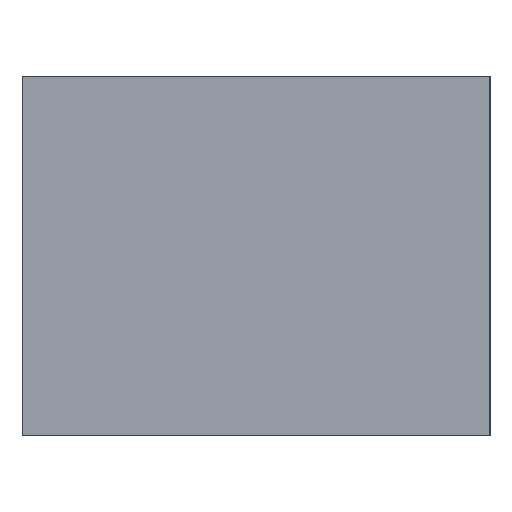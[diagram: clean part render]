
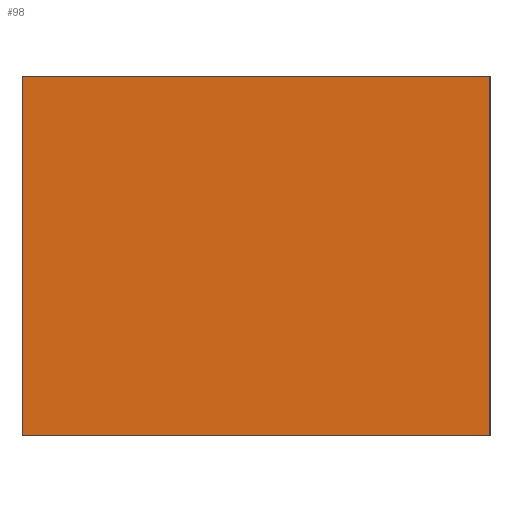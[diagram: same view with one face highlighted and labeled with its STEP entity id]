
A CAD part, left-side view. The second image highlights one B-rep face of the part: STEP entity #98.
In plain terms, the highlighted planar face has unit normal (-1, 0, 0).
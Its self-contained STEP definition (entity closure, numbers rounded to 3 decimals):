
#98 = ADVANCED_FACE( '', ( #205 ), #206, .F. );
#205 = FACE_OUTER_BOUND( '', #310, .T. );
#206 = PLANE( '', #311 );
#310 = EDGE_LOOP( '', ( #519, #520, #521, #522 ) );
#311 = AXIS2_PLACEMENT_3D( '', #523, #524, #525 );
#519 = ORIENTED_EDGE( '', *, *, #659, .T. );
#520 = ORIENTED_EDGE( '', *, *, #629, .F. );
#521 = ORIENTED_EDGE( '', *, *, #665, .F. );
#522 = ORIENTED_EDGE( '', *, *, #639, .T. );
#523 = CARTESIAN_POINT( '', ( -10., 0., 10. ) );
#524 = DIRECTION( '', ( 1., 0., 0. ) );
#525 = DIRECTION( '', ( 0., 0., -1. ) );
#629 = EDGE_CURVE( '', #756, #754, #758, .T. );
#639 = EDGE_CURVE( '', #767, #769, #771, .T. );
#659 = EDGE_CURVE( '', #769, #754, #796, .T. );
#665 = EDGE_CURVE( '', #767, #756, #802, .T. );
#754 = VERTEX_POINT( '', #928 );
#756 = VERTEX_POINT( '', #931 );
#758 = LINE( '', #934, #935 );
#767 = VERTEX_POINT( '', #947 );
#769 = VERTEX_POINT( '', #950 );
#771 = LINE( '', #953, #954 );
#796 = LINE( '', #987, #988 );
#802 = LINE( '', #996, #997 );
#928 = CARTESIAN_POINT( '', ( -10., -26., -10. ) );
#931 = CARTESIAN_POINT( '', ( -10., -26., 10. ) );
#934 = CARTESIAN_POINT( '', ( -10., -26., 10. ) );
#935 = VECTOR( '', #1053, 1000. );
#947 = CARTESIAN_POINT( '', ( -10., 0., 10. ) );
#950 = CARTESIAN_POINT( '', ( -10., 0., -10. ) );
#953 = CARTESIAN_POINT( '', ( -10., 0., 10. ) );
#954 = VECTOR( '', #1062, 1000. );
#987 = CARTESIAN_POINT( '', ( -10., 0., -10. ) );
#988 = VECTOR( '', #1077, 1000. );
#996 = CARTESIAN_POINT( '', ( -10., 0., 10. ) );
#997 = VECTOR( '', #1080, 1000. );
#1053 = DIRECTION( '', ( 0., 0., -1. ) );
#1062 = DIRECTION( '', ( 0., 0., -1. ) );
#1077 = DIRECTION( '', ( 0., -1., 0. ) );
#1080 = DIRECTION( '', ( 0., -1., 0. ) );
